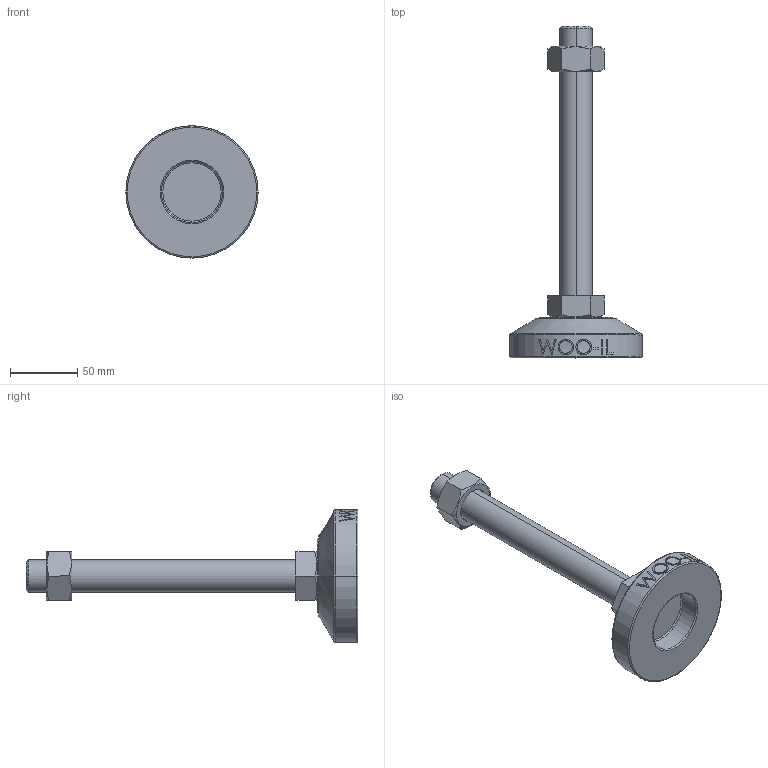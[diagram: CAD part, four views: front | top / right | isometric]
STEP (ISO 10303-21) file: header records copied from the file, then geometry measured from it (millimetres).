
FILE_DESCRIPTION (( 'STEP AP214' ), '1' );
FILE_NAME ('MF98-M24-200.step', '2021-02-03T08:23:35', ( '' ), ( '' ), 'SwSTEP 2.0', 'SolidWorks 2019', '' );
FILE_SCHEMA (( 'AUTOMOTIVE_DESIGN' ));
Length unit declared in the file: millimetre
Products named in the file (2): MF98-M24-200
Bounding box: 98 x 246 x 98 mm (x, y, z)
Volume: 287441.4 mm3; surface area: 47439.1 mm2
Topology: 3 solids, 3 shells, 106 faces, 243 edges, 154 vertices
Faces by surface type: plane 48, cylinder 18, bspline 16, cone 14, torus 10
Entity records: 4702 total; most frequent: CARTESIAN_POINT 2359, ORIENTED_EDGE 486, DIRECTION 439, EDGE_CURVE 243, AXIS2_PLACEMENT_3D 170, VERTEX_POINT 154, EDGE_LOOP 119, ADVANCED_FACE 106
